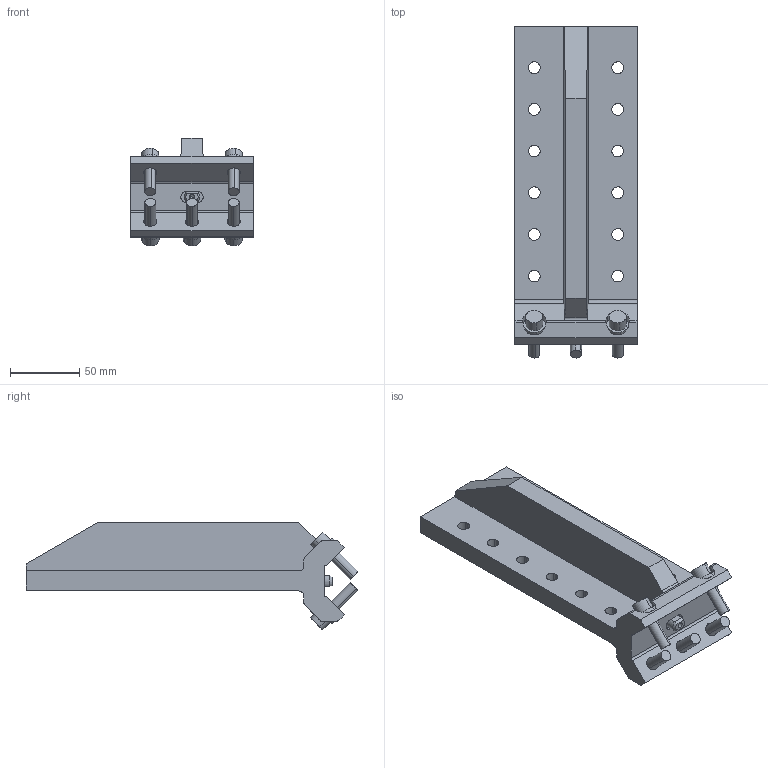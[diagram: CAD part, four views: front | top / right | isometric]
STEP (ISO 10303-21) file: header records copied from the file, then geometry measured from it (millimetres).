
FILE_DESCRIPTION(('STEP AP214'),'1');
FILE_NAME('EGT235_1_1725997_SEITENANB_MITTIG_SW50.CATPart.stp','2015-09-14T13:14:54',('3D-Tool'),(' '),'Spatial InterOp 3D',' ',' ');
FILE_SCHEMA(('automotive_design'));
Length unit declared in the file: millimetre
Products named in the file (7): EGT235_1_1725997_SEITENANB_MITTIG_SW50|EGT235_1_SEITENANB_MITTIG_SW50|Bohrbearbeitung; EGT235_1_1725997_SEITENANB_MITTIG_SW50|Schraube_M8x30.1|Solid.25; EGT235_1_1725997_SEITENANB_MITTIG_SW50|Schraube_M8x30.2|Solid.26; EGT235_1_1725997_SEITENANB_MITTIG_SW50|Schraube_M8x30.3|Solid.27; EGT235_1_1725997_SEITENANB_MITTIG_SW50|Schraube_M8x30.4|Solid.28; EGT235_1_1725997_SEITENANB_MITTIG_SW50|Schraube_M8x30.5|Solid.29; EGT235_1_1725997_SEITENANB_MITTIG_SW50|EGT_212_Zentrierstift|Solid.35
Bounding box: 88 x 238.94 x 77.68 mm (x, y, z)
Volume: 434446.6 mm3; surface area: 82626.2 mm2
Topology: 7 solids, 7 shells, 245 faces, 652 edges, 429 vertices
Faces by surface type: cylinder 181, plane 58, cone 6
Entity records: 10105 total; most frequent: CARTESIAN_POINT 1548, DIRECTION 1466, ORIENTED_EDGE 1296, EDGE_CURVE 648, AXIS2_PLACEMENT_3D 599, VERTEX_POINT 429, CIRCLE 347, EDGE_LOOP 293
